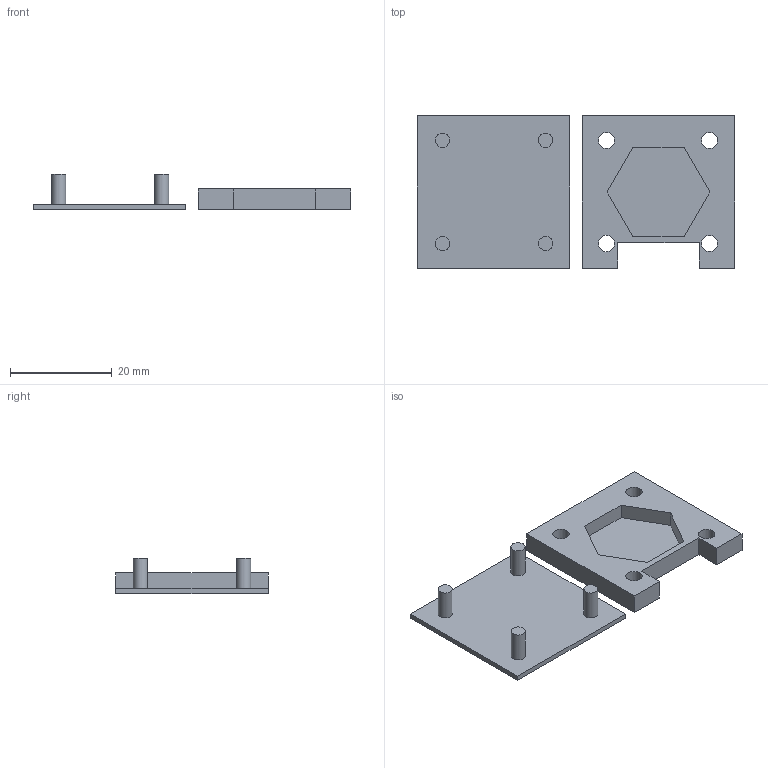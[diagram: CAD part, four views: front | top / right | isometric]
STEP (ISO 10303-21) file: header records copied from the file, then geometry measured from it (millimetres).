
FILE_DESCRIPTION(('HOOPS Exchange Step'),'2;1');
FILE_NAME('C:\Users\lindbee1\AppData\Local\Packages\Shapr3D.Shapr3D_j403pzjkqtqbj\TempState\export\temp_export','2023-09-07T14:20:49+03:00',('lindbee1'),('Shapr3D Limited'),'HOOPS Exchange 2023.2','Shapr3D','Authorized');
FILE_SCHEMA( ('AUTOMOTIVE_DESIGN { 1 0 10303 214 1 1 1 1 }') );
Length unit declared in the file: millimetre
Products named in the file (136): Board:1; CREATIVE_COMMONS:FRAME2; OSHW-LOGO-MINI:LOGO2; SFE_LOGO_FLAME_.1:U$28; SFE_LOGO_NAME_FLAME_.1:LOGO1; Base_14:1; Termination_14:1; Termination_14:2; 0603:C1; Base_14 (1):1; Termination_14 (1):1; Termination_14 (1):2; 0603 (1):C4; 0603 (2):C2; JST04_1MM_RA:J1; JST04_1MM_RA (1):J2; EMT3F-prt0:1; EMT3F-prt1:1; EMT3F-prt2:1; EMT3F-prt3:1; SOT-416FL:Q2; EMT3F-prt0 (1):1; EMT3F-prt1 (1):1; EMT3F-prt2 (1):1; EMT3F-prt3 (1):1; SOT-416FL (1):Q4; EMT3F-prt0 (2):1; EMT3F-prt1 (2):1; EMT3F-prt2 (2):1; EMT3F-prt3 (2):1; SOT-416FL (2):Q6; EMT3F-prt0 (3):1; EMT3F-prt1 (3):1; EMT3F-prt2 (3):1; EMT3F-prt3 (3):1; SOT-416FL (3):Q8; EMT3F-prt0 (4):1; EMT3F-prt1 (4):1; EMT3F-prt2 (4):1; EMT3F-prt3 (4):1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
Assembly tree (135 placements, depth 5):
  root
    temp_import.iges
      Board:1
      Packages:1
        CREATIVE_COMMONS:FRAME2
        OSHW-LOGO-MINI:LOGO2
        SFE_LOGO_FLAME_.1:U$28
        SFE_LOGO_NAME_FLAME_.1:LOGO1
        0603:C1
          Base_14:1
          Termination_14:1
          Termination_14:2
        0603 (1):C4
          Base_14 (1):1
          Termination_14 (1):1
          Termination_14 (1):2
        0603 (2):C2
        JST04_1MM_RA:J1
        JST04_1MM_RA (1):J2
        SOT-416FL:Q2
          EMT3F-prt0:1
          EMT3F-prt1:1
          EMT3F-prt2:1
          EMT3F-prt3:1
        SOT-416FL (1):Q4
          EMT3F-prt0 (1):1
          EMT3F-prt1 (1):1
          EMT3F-prt2 (1):1
          EMT3F-prt3 (1):1
        SOT-416FL (2):Q6
          EMT3F-prt0 (2):1
          EMT3F-prt1 (2):1
          EMT3F-prt2 (2):1
          EMT3F-prt3 (2):1
        SOT-416FL (3):Q8
          EMT3F-prt0 (3):1
          EMT3F-prt1 (3):1
          EMT3F-prt2 (3):1
          EMT3F-prt3 (3):1
        SOT-416FL (4):Q10
          EMT3F-prt0 (4):1
          EMT3F-prt1 (4):1
          EMT3F-prt2 (4):1
          EMT3F-prt3 (4):1
        SOT-416FL (5):Q12
          EMT3F-prt0 (5):1
          EMT3F-prt1 (5):1
          EMT3F-prt2 (5):1
          EMT3F-prt3 (5):1
        SOT-416FL (6):Q14
          EMT3F-prt0 (6):1
          EMT3F-prt1 (6):1
          EMT3F-prt2 (6):1
          EMT3F-prt3 (6):1
        SOT-416FL (7):Q16
          EMT3F-prt0 (7):1
          EMT3F-prt1 (7):1
          EMT3F-prt2 (7):1
          EMT3F-prt3 (7):1
        SC70:U3
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Bounding box: 62.5 x 30 x 7 mm (x, y, z)
Volume: 3403.4 mm3; surface area: 4569.5 mm2
Topology: 2 solids, 2 shells, 35 faces, 94 edges, 68 vertices
Faces by surface type: plane 27, cylinder 8
Full cylindrical faces by diameter (mm): 2.8 x4, 3.2 x4
Entity records: 3732 total; most frequent: DIRECTION 468, CARTESIAN_POINT 333, PRODUCT_DEFINITION_SHAPE 271, AXIS2_PLACEMENT_3D 203, ORIENTED_EDGE 188, PLANE_ANGLE_MEASURE_WITH_UNIT 136, DIMENSIONAL_EXPONENTS 136, UNCERTAINTY_MEASURE_WITH_UNIT 136
